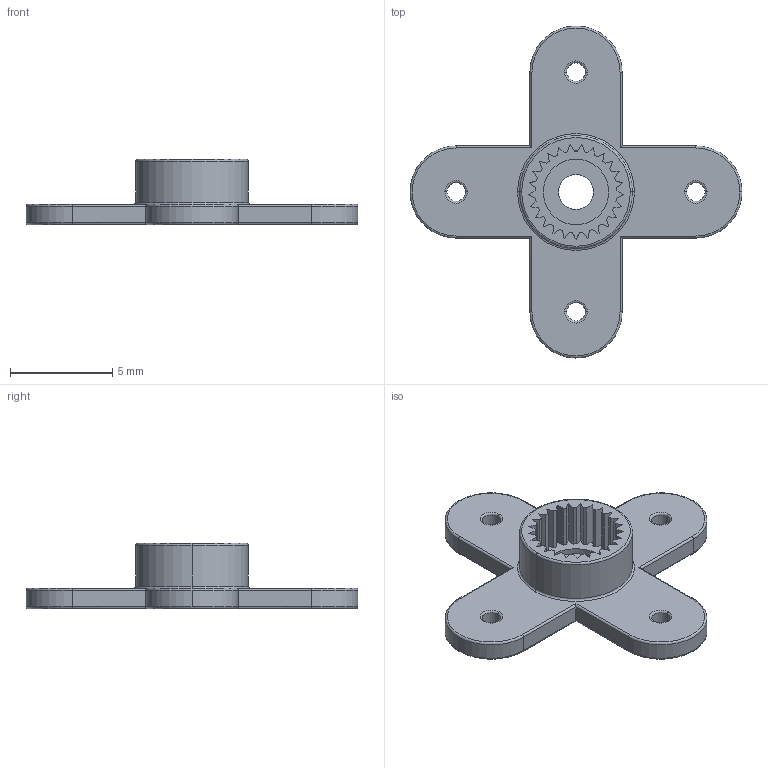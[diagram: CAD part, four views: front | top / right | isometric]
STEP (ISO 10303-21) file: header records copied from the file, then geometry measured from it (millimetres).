
FILE_DESCRIPTION (( 'STEP AP203' ), '1' );
FILE_NAME ('Micro sized Servo Mount - x4_Quatro.step', '2015-09-06T16:23:01', ( '' ), ( '' ), 'SwSTEP 2.0', 'SolidWorks 2015', '' );
FILE_SCHEMA (( 'CONFIG_CONTROL_DESIGN' ));
Length unit declared in the file: millimetre
Products named in the file (1): Micro sized Servo Mount - x4_Quatro
Bounding box: 16.2 x 16.2 x 3.2 mm (x, y, z)
Volume: 129.1 mm3; surface area: 382.2 mm2
Topology: 1 solids, 1 shells, 168 faces, 440 edges, 278 vertices
Faces by surface type: plane 74, cylinder 62, torus 32
Entity records: 5259 total; most frequent: DIRECTION 936, CARTESIAN_POINT 911, ORIENTED_EDGE 880, EDGE_CURVE 440, AXIS2_PLACEMENT_3D 335, VERTEX_POINT 278, LINE 266, VECTOR 266
